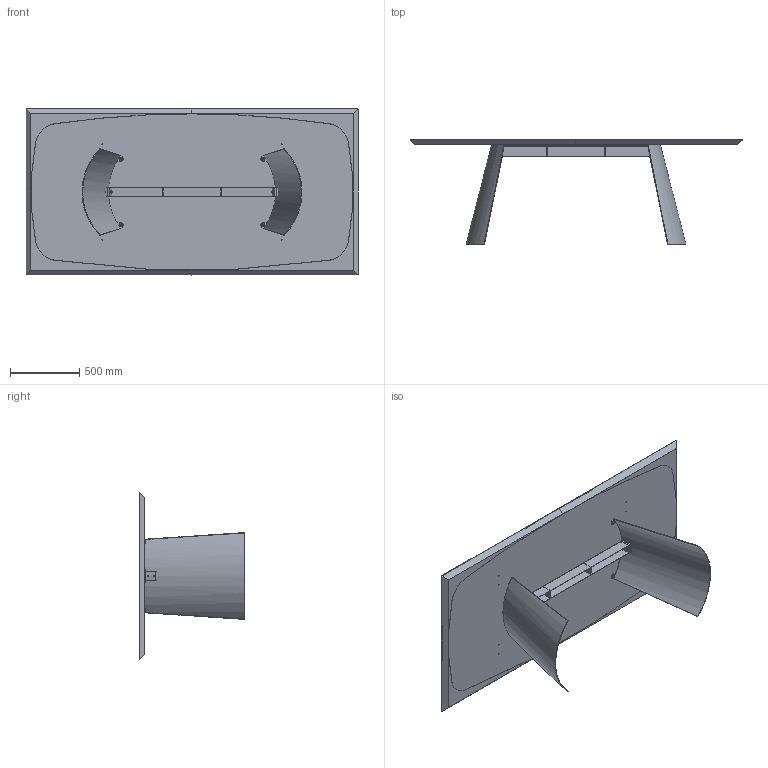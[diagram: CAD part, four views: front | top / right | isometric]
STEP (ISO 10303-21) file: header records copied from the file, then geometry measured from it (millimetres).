
FILE_DESCRIPTION (( 'STEP AP203' ), '1' );
FILE_NAME ('DN23W.STEP', '2024-08-07T15:07:25', ( '' ), ( '' ), 'SwSTEP 2.0', 'SolidWorks 2022', '' );
FILE_SCHEMA (( 'CONFIG_CONTROL_DESIGN' ));
Length unit declared in the file: millimetre
Products named in the file (15): feltro Ø12x3; rondella M8X24; W4XCMXX-00-Piani Sagomati legno_2400 x 1200; GRANO M8X35_barra; DNB300000_01-02-GAMBA DORIAN; DNB300000_02-02-RISCONTRO STANGONE CENTRALE; rondella M8_8X16; SDNB300000-02-GAMBA X TRASP; DNBX00000-01-DORIAN TRAVERSO LXXXX PER TAVOLO LX00_L.1250; W2XCMXX-00-Piani Rettangolari in legno_2400 x 1200; nut_M8_M8; DNB400000-02-ASSIEME STRUTTURA COMPLETA_L.1250; DN23W; M8xXXmm_M8x20mm; DNB300000_03-02-PIASTRINA
Assembly tree (34 placements, depth 4):
  DN23W
    W4XCMXX-00-Piani Sagomati legno_2400 x 1200
    W2XCMXX-00-Piani Rettangolari in legno_2400 x 1200
    DNB400000-02-ASSIEME STRUTTURA COMPLETA_L.1250
      SDNB300000-02-GAMBA X TRASP  x2
        DNB300000_01-02-GAMBA DORIAN
        DNB300000_02-02-RISCONTRO STANGONE CENTRALE
        DNB300000_03-02-PIASTRINA
      DNBX00000-01-DORIAN TRAVERSO LXXXX PER TAVOLO LX00_L.1250
    GRANO M8X35_barra  x4
    rondella M8_8X16  x4
    nut_M8_M8  x4
    M8xXXmm_M8x20mm  x4
    rondella M8X24  x4
    feltro Ø12x3  x4
Bounding box: 2400 x 758 x 1200 mm (x, y, z)
Volume: 207766233.2 mm3; surface area: 13854884.7 mm2
Topology: 39 solids, 39 shells, 751 faces, 1758 edges, 1051 vertices
Faces by surface type: plane 266, cylinder 217, cone 161, torus 89, bspline 18
Entity records: 14863 total; most frequent: CARTESIAN_POINT 2874, DIRECTION 2144, ORIENTED_EDGE 1964, EDGE_CURVE 982, AXIS2_PLACEMENT_3D 799, VERTEX_POINT 623, LINE 546, VECTOR 546
